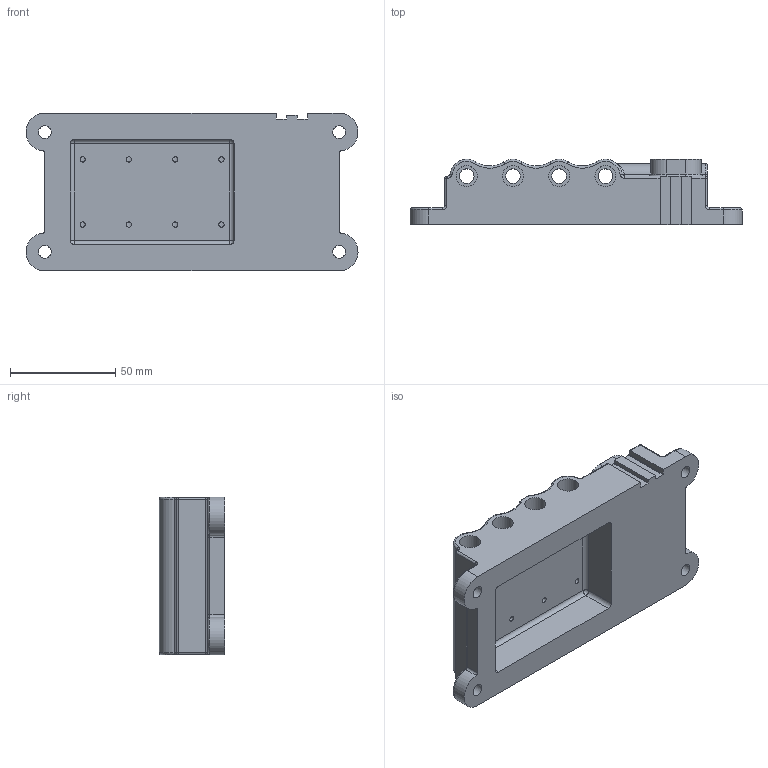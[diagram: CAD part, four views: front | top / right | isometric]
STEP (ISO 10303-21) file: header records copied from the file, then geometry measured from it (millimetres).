
FILE_DESCRIPTION(/* description */ ('CAx-IF Rec.Pracs.---Representation and Presentation of Product Manufacturing Information (PMI)---4.0---2014-10-13','CAx-IF Rec.Pracs.---3D Tessellated Geometry---0.4---2014-09-14','2;1'),/* implementation_level */ '2;1');
FILE_NAME(/* name */ 'nist_stc_10_asme1',/* time_stamp */ '2024-03-07T11:37:35+05:30',/* author */ (''),/* organization */ (''),/* preprocessor_version */ '',/* originating_system */ '',/* authorisation */ $);
FILE_SCHEMA (('AP242_MANAGED_MODEL_BASED_3D_ENGINEERING_MIM_LF { 1 0 10303 442 3 1 4 }'));
Products named in the file (1): nist_stc_10_asme1
Bounding box: 157.98 x 31 x 75 mm (x, y, z)
Volume: 188312.8 mm3; surface area: 48486.5 mm2
Topology: 1 solids, 1 shells, 256 faces, 651 edges, 412 vertices
Faces by surface type: cylinder 117, plane 77, torus 43, sphere 10, cone 8, bspline 1
Full cylindrical faces by diameter (mm): 2.5 x8, 3 x6, 3.5 x6, 5.5 x2, 6 x4, 7 x4, 10 x12
Entity records: 11775 total; most frequent: DIRECTION 1862, CARTESIAN_POINT 1774, ORIENTED_EDGE 1102, AXIS2_PLACEMENT_3D 804, EDGE_CURVE 551, FACE_BOUND 379, VERTEX_POINT 376, EDGE_LOOP 371
